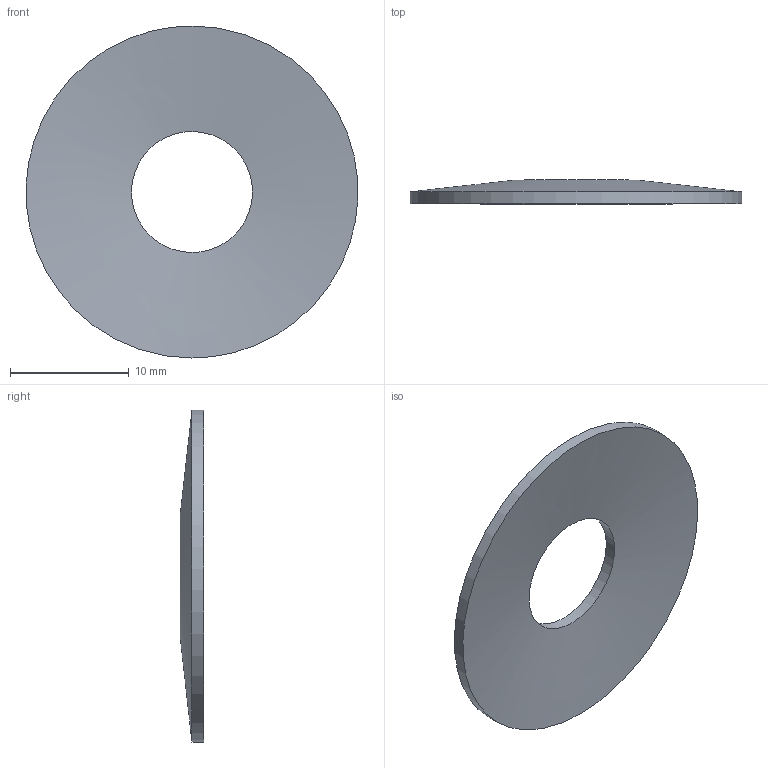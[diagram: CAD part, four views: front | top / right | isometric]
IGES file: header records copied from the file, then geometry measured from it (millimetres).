
Global section: file name: ST.0280.0102.0100; native system: Autodesk Inventor 2026; preprocessor: unknown; author: J. Iwanek; date: 20260918.102848; units: millimetre
Bounding box: 27.98 x 2 x 28 mm (x, y, z)
Volume: 537.6 mm3; surface area: 1195.9 mm2
Topology: 1 solids, 1 shells, 4 faces, 12 edges, 8 vertices
Faces by surface type: bspline 4
